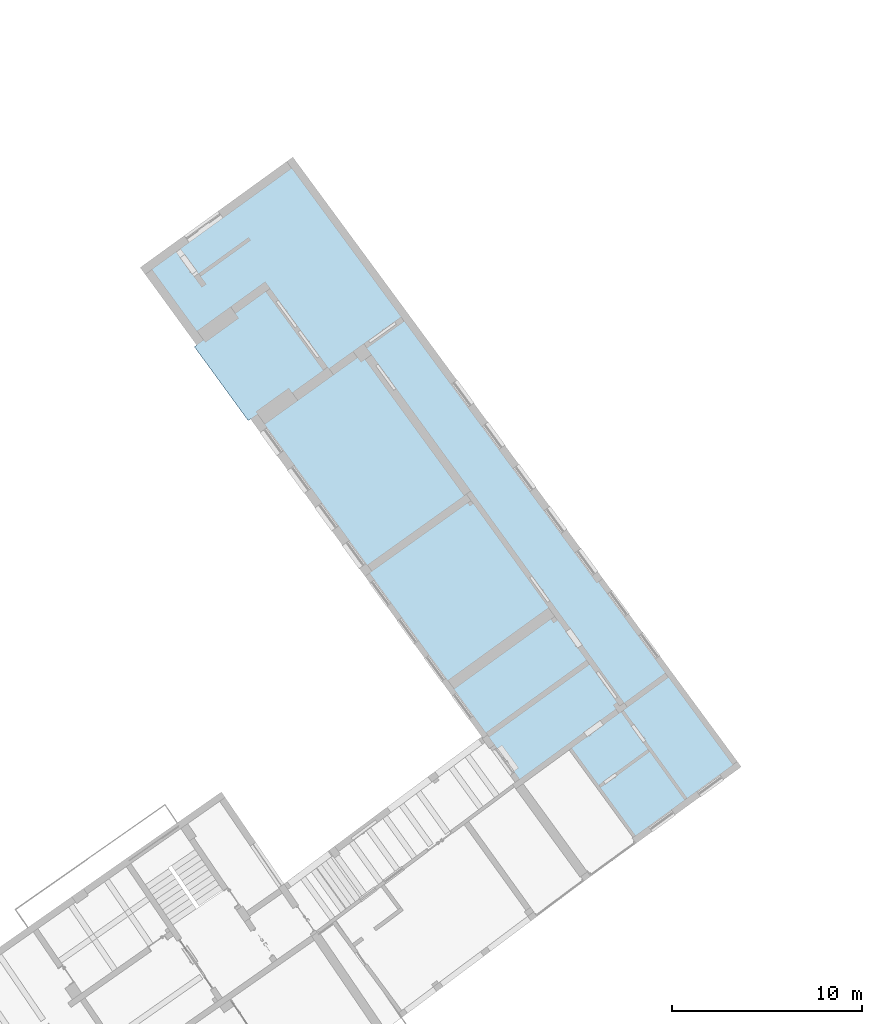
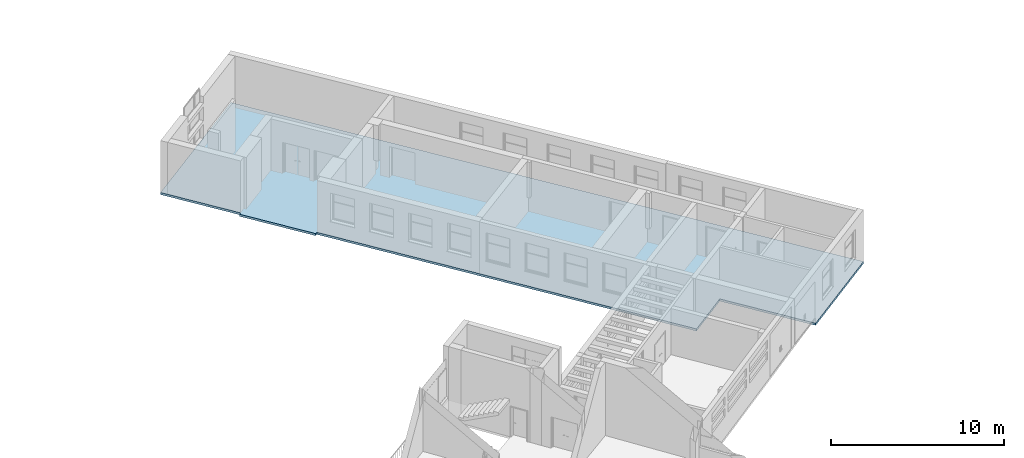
# One storey, part 51 of 157: 1 slab.
"""IFC2X3 building model written with IfcOpenShell, lengths in millimetres."""

from ifc_helpers import new_model, entity, si_unit, converted_unit, derived_unit, direction, frame, origin, place, context, subcontext, project, spatial, polyline, outline, extrude, material, layer, layer_set, layer_usage, type_object, element, save


model = new_model("IFC2X3")

# Units and contexts
model_context = context("Model", 3, precision=0.01, world=origin(), true_north=direction((6.123031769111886e-17, 1.0)))
body_context = subcontext(model_context, "Body", "Model", "MODEL_VIEW")
ifc_project = project(units=[si_unit("LENGTHUNIT", "METRE", prefix="MILLI"), si_unit("AREAUNIT", "SQUARE_METRE"), si_unit("VOLUMEUNIT", "CUBIC_METRE"), converted_unit("PLANEANGLEUNIT", "DEGREE", entity("IfcRatioMeasure", 0.017453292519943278), si_unit("PLANEANGLEUNIT", "RADIAN"), dimensions=[0, 0, 0, 0, 0, 0, 0]), si_unit("MASSUNIT", "GRAM", prefix="KILO"), derived_unit("MASSDENSITYUNIT", [(si_unit("MASSUNIT", "GRAM", prefix="KILO"), 1), (si_unit("LENGTHUNIT", "METRE"), -3)]), derived_unit("MOMENTOFINERTIAUNIT", [(si_unit("LENGTHUNIT", "METRE"), 4)]), si_unit("TIMEUNIT", "SECOND"), si_unit("FREQUENCYUNIT", "HERTZ"), si_unit("THERMODYNAMICTEMPERATUREUNIT", "DEGREE_CELSIUS"), derived_unit("THERMALTRANSMITTANCEUNIT", [(si_unit("MASSUNIT", "GRAM", prefix="KILO"), 1), (si_unit("THERMODYNAMICTEMPERATUREUNIT", "KELVIN"), -1), (si_unit("TIMEUNIT", "SECOND"), -3)]), derived_unit("THERMALCONDUCTANCEUNIT", [(si_unit("MASSUNIT", "GRAM", prefix="KILO"), 1), (si_unit("LENGTHUNIT", "METRE"), 1), (si_unit("THERMODYNAMICTEMPERATUREUNIT", "KELVIN"), -1), (si_unit("TIMEUNIT", "SECOND"), -3)]), derived_unit("VOLUMETRICFLOWRATEUNIT", [(si_unit("LENGTHUNIT", "METRE"), 3), (si_unit("TIMEUNIT", "SECOND"), -1)]), derived_unit("MASSFLOWRATEUNIT", [(si_unit("MASSUNIT", "GRAM", prefix="KILO"), 1), (si_unit("TIMEUNIT", "SECOND"), -1)]), derived_unit("ROTATIONALFREQUENCYUNIT", [(si_unit("TIMEUNIT", "SECOND"), -1)]), si_unit("ELECTRICCURRENTUNIT", "AMPERE"), si_unit("ELECTRICVOLTAGEUNIT", "VOLT"), si_unit("POWERUNIT", "WATT"), converted_unit("FORCEUNIT", "KIP", entity("IfcRatioMeasure", 2.088543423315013e-05), si_unit("FORCEUNIT", "NEWTON"), dimensions=[1, 1, -2, 0, 0, 0, 0]), si_unit("ILLUMINANCEUNIT", "LUX"), si_unit("LUMINOUSFLUXUNIT", "LUMEN"), si_unit("LUMINOUSINTENSITYUNIT", "CANDELA"), derived_unit("USERDEFINED", [(si_unit("MASSUNIT", "GRAM", prefix="KILO"), -1), (si_unit("LENGTHUNIT", "METRE"), -2), (si_unit("TIMEUNIT", "SECOND"), 3), (si_unit("LUMINOUSFLUXUNIT", "LUMEN"), 1)]), derived_unit("USERDEFINED", [(si_unit("MASSUNIT", "GRAM", prefix="KILO"), 1), (si_unit("LENGTHUNIT", "METRE"), 3), (si_unit("TIMEUNIT", "SECOND"), -3), (si_unit("ELECTRICCURRENTUNIT", "AMPERE"), -2)]), derived_unit("USERDEFINED", [(si_unit("LENGTHUNIT", "METRE"), 2), (si_unit("TIMEUNIT", "SECOND"), -2)]), derived_unit("SOUNDPOWERUNIT", [(si_unit("MASSUNIT", "GRAM", prefix="KILO"), 1), (si_unit("LENGTHUNIT", "METRE"), 2), (si_unit("TIMEUNIT", "SECOND"), -3)]), derived_unit("SOUNDPRESSUREUNIT", [(si_unit("MASSUNIT", "GRAM", prefix="KILO"), 1), (si_unit("LENGTHUNIT", "METRE"), -1), (si_unit("TIMEUNIT", "SECOND"), -2)]), derived_unit("LINEARVELOCITYUNIT", [(si_unit("LENGTHUNIT", "METRE"), 1), (si_unit("TIMEUNIT", "SECOND"), -1)]), si_unit("PRESSUREUNIT", "PASCAL"), derived_unit("USERDEFINED", [(si_unit("LENGTHUNIT", "METRE"), -2), (si_unit("MASSUNIT", "GRAM", prefix="KILO"), 1), (si_unit("TIMEUNIT", "SECOND"), -2)]), derived_unit("LINEARFORCEUNIT", [(si_unit("MASSUNIT", "GRAM", prefix="KILO"), 1), (si_unit("LENGTHUNIT", "METRE"), 1), (si_unit("TIMEUNIT", "SECOND"), -2), (si_unit("LENGTHUNIT", "METRE"), -1)]), derived_unit("PLANARFORCEUNIT", [(si_unit("MASSUNIT", "GRAM", prefix="KILO"), 1), (si_unit("LENGTHUNIT", "METRE"), 1), (si_unit("TIMEUNIT", "SECOND"), -2), (si_unit("LENGTHUNIT", "METRE"), -2)]), derived_unit("SPECIFICHEATCAPACITYUNIT", [(si_unit("LENGTHUNIT", "METRE"), 2), (si_unit("TIMEUNIT", "SECOND"), -2), (si_unit("THERMODYNAMICTEMPERATUREUNIT", "KELVIN"), -1)]), derived_unit("VAPORPERMEABILITYUNIT", [(si_unit("TIMEUNIT", "SECOND"), 1), (si_unit("LENGTHUNIT", "METRE"), -1)]), derived_unit("DYNAMICVISCOSITYUNIT", [(si_unit("MASSUNIT", "GRAM", prefix="KILO"), 1), (si_unit("LENGTHUNIT", "METRE"), -1), (si_unit("TIMEUNIT", "SECOND"), -1)]), derived_unit("THERMALEXPANSIONCOEFFICIENTUNIT", [(si_unit("THERMODYNAMICTEMPERATUREUNIT", "KELVIN"), -1)])], contexts=[model_context])

# Site, building, storey
site_placement = place(None, frame((0.0, 0.0, 0.0), z_axis=(0.0, 0.0, 1.0), x_axis=(0.8191520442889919, 0.5735764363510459, 0.0)))
site = spatial("IfcSite", under=ifc_project, at=site_placement, Name="Default", CompositionType="ELEMENT")
building_placement = place(site_placement, origin())
building = spatial("IfcBuilding", under=site, at=building_placement, CompositionType="ELEMENT")
storey_placement = place(building_placement, origin())
storey = spatial("IfcBuildingStorey", under=building, at=storey_placement, Name="1.EG +0.00", CompositionType="ELEMENT", Elevation=-4.331468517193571e-12)

# Slab
ifc_material = material(Name="Analytical Floor Surface_CJC")
ifc_layer = layer(ifc_material, 150.0)
ifc_layer_set = layer_set([ifc_layer], Name="Floor:Boden_CJC")
ifc_layer_usage = layer_usage(ifc_layer_set, "AXIS3", "POSITIVE", 0.0)
slab_type = type_object("IfcSlabType", Name="Floor:Boden_CJC", PredefinedType="FLOOR", material=ifc_layer_set)
slab_placement = place(storey_placement, origin())
element("IfcSlab", 1, at=slab_placement, inside=storey, type_object=slab_type, material=ifc_layer_usage, Name="Floor:Boden_CJC", ObjectType="Floor:Boden_CJC", PredefinedType="FLOOR", context=body_context, shape_type="SweptSolid", body=[
    extrude(outline(polyline([(-15932.297243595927, -7817.046842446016), (23876.292780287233, -7817.046842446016), (23843.329520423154, -1022.5291364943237), (17801.171391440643, -1045.2995414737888), (17788.747604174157, 2251.369415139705), (-6159.776666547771, 2137.924016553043), (-6161.536353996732, 2287.9173637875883), (-6311.5383400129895, 2287.206796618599), (-10811.037295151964, 2265.892536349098), (-10961.036425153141, 2265.1817845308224), (-10960.325677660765, 2115.183567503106), (-16011.993294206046, 2091.2468823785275), (-15932.297243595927, -7817.046842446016)])), frame((-189230.0299155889, 182107.27586669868, -1150.0), z_axis=(0.0, 0.0, -1.0), x_axis=(0.023275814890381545, -0.9997290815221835, 0.0)), (0.0, 0.0, 1.0), 150.0),
])

save(model, "model.ifc")
